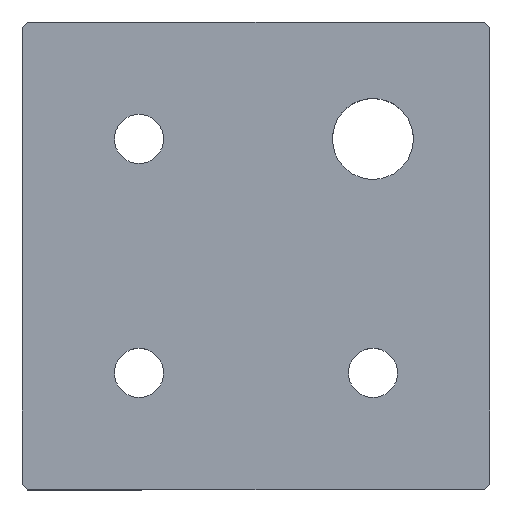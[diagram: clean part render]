
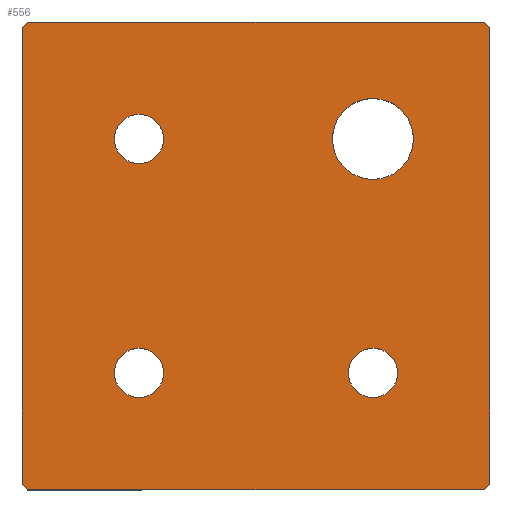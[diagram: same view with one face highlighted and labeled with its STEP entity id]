
A CAD part, top view. The second image highlights one B-rep face of the part: STEP entity #556.
In plain terms, the highlighted planar face has unit normal (0, 0, 1).
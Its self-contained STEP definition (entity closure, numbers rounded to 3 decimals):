
#47 = DIRECTION ( 'NONE',  ( -1., 0., 0. ) ) ;
#60 = CARTESIAN_POINT ( 'NONE',  ( -40., -40., 12. ) ) ;
#77 = CARTESIAN_POINT ( 'NONE',  ( -20., -20., 12. ) ) ;
#83 = DIRECTION ( 'NONE',  ( 0., 0., -1. ) ) ;
#84 = DIRECTION ( 'NONE',  ( -1., 0., 0. ) ) ;
#86 = CARTESIAN_POINT ( 'NONE',  ( 20., 20., 12. ) ) ;
#88 = DIRECTION ( 'NONE',  ( 1., 0., 0. ) ) ;
#108 = DIRECTION ( 'NONE',  ( 0., 0., 1. ) ) ;
#110 = CARTESIAN_POINT ( 'NONE',  ( 24.2, -20., 12. ) ) ;
#111 = CARTESIAN_POINT ( 'NONE',  ( 40., -39., 12. ) ) ;
#113 = CARTESIAN_POINT ( 'NONE',  ( 39., -40., 12. ) ) ;
#119 = CARTESIAN_POINT ( 'NONE',  ( -15.8, 20., 12. ) ) ;
#120 = DIRECTION ( 'NONE',  ( 0., 0., 1. ) ) ;
#122 = DIRECTION ( 'NONE',  ( 1., 0., 0. ) ) ;
#123 = PLANE ( 'NONE',  #235 ) ;
#130 = DIRECTION ( 'NONE',  ( 1., 0., 0. ) ) ;
#133 = CARTESIAN_POINT ( 'NONE',  ( 0., 0., 12. ) ) ;
#135 = CARTESIAN_POINT ( 'NONE',  ( 40., 40., 12. ) ) ;
#141 = EDGE_CURVE ( 'NONE', #835, #825, #851, .T. ) ;
#152 = EDGE_CURVE ( 'NONE', #833, #647, #629, .T. ) ;
#154 = AXIS2_PLACEMENT_3D ( 'NONE', #353, #341, #342 ) ;
#167 = EDGE_CURVE ( 'NONE', #647, #628, #854, .T. ) ;
#169 = EDGE_CURVE ( 'NONE', #580, #824, #591, .T. ) ;
#170 = EDGE_CURVE ( 'NONE', #823, #631, #663, .T. ) ;
#181 = EDGE_CURVE ( 'NONE', #635, #620, #594, .T. ) ;
#184 = AXIS2_PLACEMENT_3D ( 'NONE', #295, #300, #301 ) ;
#187 = EDGE_CURVE ( 'NONE', #800, #833, #570, .T. ) ;
#192 = EDGE_CURVE ( 'NONE', #822, #607, #559, .T. ) ;
#214 = EDGE_CURVE ( 'NONE', #824, #803, #664, .T. ) ;
#217 = AXIS2_PLACEMENT_3D ( 'NONE', #77, #83, #47 ) ;
#231 = EDGE_CURVE ( 'NONE', #603, #580, #690, .T. ) ;
#235 = AXIS2_PLACEMENT_3D ( 'NONE', #133, #108, #122 ) ;
#239 = EDGE_CURVE ( 'NONE', #607, #822, #870, .T. ) ;
#241 = AXIS2_PLACEMENT_3D ( 'NONE', #86, #120, #130 ) ;
#246 = AXIS2_PLACEMENT_3D ( 'NONE', #316, #304, #285 ) ;
#252 = EDGE_CURVE ( 'NONE', #620, #635, #657, .T. ) ;
#254 = AXIS2_PLACEMENT_3D ( 'NONE', #282, #281, #283 ) ;
#257 = EDGE_CURVE ( 'NONE', #631, #823, #622, .T. ) ;
#259 = AXIS2_PLACEMENT_3D ( 'NONE', #318, #319, #320 ) ;
#263 = AXIS2_PLACEMENT_3D ( 'NONE', #398, #391, #359 ) ;
#269 = EDGE_CURVE ( 'NONE', #803, #800, #857, .T. ) ;
#270 = EDGE_CURVE ( 'NONE', #825, #835, #855, .T. ) ;
#277 = EDGE_CURVE ( 'NONE', #628, #603, #884, .T. ) ;
#281 = DIRECTION ( 'NONE',  ( 0., 0., -1. ) ) ;
#282 = CARTESIAN_POINT ( 'NONE',  ( -20., -20., 12. ) ) ;
#283 = DIRECTION ( 'NONE',  ( -1., 0., 0. ) ) ;
#285 = DIRECTION ( 'NONE',  ( 1., 0., 0. ) ) ;
#287 = CARTESIAN_POINT ( 'NONE',  ( -40., 40., 12. ) ) ;
#290 = DIRECTION ( 'NONE',  ( 0.707, 0.707, 0. ) ) ;
#292 = DIRECTION ( 'NONE',  ( 0., 1., 0. ) ) ;
#295 = CARTESIAN_POINT ( 'NONE',  ( 20., -20., 12. ) ) ;
#300 = DIRECTION ( 'NONE',  ( 0., 0., -1. ) ) ;
#301 = DIRECTION ( 'NONE',  ( -1., 0., 0. ) ) ;
#304 = DIRECTION ( 'NONE',  ( 0., 0., 1. ) ) ;
#315 = CARTESIAN_POINT ( 'NONE',  ( -39.5, 39.5, 12. ) ) ;
#316 = CARTESIAN_POINT ( 'NONE',  ( 20., 20., 12. ) ) ;
#318 = CARTESIAN_POINT ( 'NONE',  ( -20., 20., 12. ) ) ;
#319 = DIRECTION ( 'NONE',  ( 0., 0., -1. ) ) ;
#320 = DIRECTION ( 'NONE',  ( -1., 0., 0. ) ) ;
#324 = DIRECTION ( 'NONE',  ( -0.707, -0.707, 0. ) ) ;
#341 = DIRECTION ( 'NONE',  ( 0., 0., -1. ) ) ;
#342 = DIRECTION ( 'NONE',  ( -1., 0., 0. ) ) ;
#346 = CARTESIAN_POINT ( 'NONE',  ( 40., -40., 12. ) ) ;
#353 = CARTESIAN_POINT ( 'NONE',  ( -20., 20., 12. ) ) ;
#358 = DIRECTION ( 'NONE',  ( 0.707, -0.707, 0. ) ) ;
#359 = DIRECTION ( 'NONE',  ( -1., 0., 0. ) ) ;
#365 = CARTESIAN_POINT ( 'NONE',  ( 39.5, 39.5, 12. ) ) ;
#374 = DIRECTION ( 'NONE',  ( -0.707, 0.707, 0. ) ) ;
#379 = DIRECTION ( 'NONE',  ( 0., -1., 0. ) ) ;
#390 = CARTESIAN_POINT ( 'NONE',  ( 39.5, -39.5, 12. ) ) ;
#391 = DIRECTION ( 'NONE',  ( 0., 0., -1. ) ) ;
#398 = CARTESIAN_POINT ( 'NONE',  ( 20., -20., 12. ) ) ;
#405 = CARTESIAN_POINT ( 'NONE',  ( -39.5, -39.5, 12. ) ) ;
#414 = CARTESIAN_POINT ( 'NONE',  ( 39., 40., 12. ) ) ;
#434 = CARTESIAN_POINT ( 'NONE',  ( 26.918, 20., 12. ) ) ;
#441 = CARTESIAN_POINT ( 'NONE',  ( -39., -40., 12. ) ) ;
#442 = CARTESIAN_POINT ( 'NONE',  ( 40., 39., 12. ) ) ;
#445 = CARTESIAN_POINT ( 'NONE',  ( -24.2, 20., 12. ) ) ;
#446 = CARTESIAN_POINT ( 'NONE',  ( 15.8, -20., 12. ) ) ;
#455 = CARTESIAN_POINT ( 'NONE',  ( -24.2, -20., 12. ) ) ;
#457 = CARTESIAN_POINT ( 'NONE',  ( -39., 40., 12. ) ) ;
#463 = CARTESIAN_POINT ( 'NONE',  ( -40., 39., 12. ) ) ;
#466 = CARTESIAN_POINT ( 'NONE',  ( -40., -39., 12. ) ) ;
#467 = CARTESIAN_POINT ( 'NONE',  ( 13.082, 20., 12. ) ) ;
#468 = CARTESIAN_POINT ( 'NONE',  ( -15.8, -20., 12. ) ) ;
#482 = FACE_BOUND ( 'NONE', #735, .T. ) ;
#484 = FACE_OUTER_BOUND ( 'NONE', #839, .T. ) ;
#488 = FACE_BOUND ( 'NONE', #730, .T. ) ;
#491 = FACE_BOUND ( 'NONE', #658, .T. ) ;
#501 = FACE_BOUND ( 'NONE', #897, .T. ) ;
#556 = ADVANCED_FACE ( 'NONE', ( #482, #501, #488, #491, #484 ), #123, .T. ) ;
#559 = CIRCLE ( 'NONE', #184, 4.2 ) ;
#561 = ORIENTED_EDGE ( 'NONE', *, *, #167, .T. ) ;
#570 = LINE ( 'NONE', #315, #595 ) ;
#578 = ORIENTED_EDGE ( 'NONE', *, *, #277, .T. ) ;
#580 = VERTEX_POINT ( 'NONE', #111 ) ;
#591 = LINE ( 'NONE', #346, #673 ) ;
#594 = CIRCLE ( 'NONE', #259, 4.2 ) ;
#595 = VECTOR ( 'NONE', #324, 1000. ) ;
#603 = VERTEX_POINT ( 'NONE', #113 ) ;
#604 = ORIENTED_EDGE ( 'NONE', *, *, #141, .F. ) ;
#607 = VERTEX_POINT ( 'NONE', #110 ) ;
#608 = ORIENTED_EDGE ( 'NONE', *, *, #187, .T. ) ;
#611 = VECTOR ( 'NONE', #358, 1000. ) ;
#620 = VERTEX_POINT ( 'NONE', #119 ) ;
#622 = CIRCLE ( 'NONE', #217, 4.2 ) ;
#628 = VERTEX_POINT ( 'NONE', #441 ) ;
#629 = LINE ( 'NONE', #287, #829 ) ;
#631 = VERTEX_POINT ( 'NONE', #455 ) ;
#635 = VERTEX_POINT ( 'NONE', #445 ) ;
#640 = ORIENTED_EDGE ( 'NONE', *, *, #231, .T. ) ;
#647 = VERTEX_POINT ( 'NONE', #466 ) ;
#657 = CIRCLE ( 'NONE', #154, 4.2 ) ;
#658 = EDGE_LOOP ( 'NONE', ( #695, #711 ) ) ;
#663 = CIRCLE ( 'NONE', #254, 4.2 ) ;
#664 = LINE ( 'NONE', #365, #904 ) ;
#673 = VECTOR ( 'NONE', #292, 1000. ) ;
#683 = ORIENTED_EDGE ( 'NONE', *, *, #192, .T. ) ;
#690 = LINE ( 'NONE', #390, #742 ) ;
#695 = ORIENTED_EDGE ( 'NONE', *, *, #181, .T. ) ;
#711 = ORIENTED_EDGE ( 'NONE', *, *, #252, .T. ) ;
#728 = ORIENTED_EDGE ( 'NONE', *, *, #270, .F. ) ;
#730 = EDGE_LOOP ( 'NONE', ( #683, #874 ) ) ;
#735 = EDGE_LOOP ( 'NONE', ( #728, #604 ) ) ;
#742 = VECTOR ( 'NONE', #290, 1000. ) ;
#751 = ORIENTED_EDGE ( 'NONE', *, *, #170, .T. ) ;
#765 = ORIENTED_EDGE ( 'NONE', *, *, #214, .T. ) ;
#800 = VERTEX_POINT ( 'NONE', #457 ) ;
#803 = VERTEX_POINT ( 'NONE', #414 ) ;
#804 = ORIENTED_EDGE ( 'NONE', *, *, #269, .T. ) ;
#821 = ORIENTED_EDGE ( 'NONE', *, *, #257, .T. ) ;
#822 = VERTEX_POINT ( 'NONE', #446 ) ;
#823 = VERTEX_POINT ( 'NONE', #468 ) ;
#824 = VERTEX_POINT ( 'NONE', #442 ) ;
#825 = VERTEX_POINT ( 'NONE', #434 ) ;
#829 = VECTOR ( 'NONE', #379, 1000. ) ;
#833 = VERTEX_POINT ( 'NONE', #463 ) ;
#835 = VERTEX_POINT ( 'NONE', #467 ) ;
#838 = VECTOR ( 'NONE', #84, 1000. ) ;
#839 = EDGE_LOOP ( 'NONE', ( #845, #561, #578, #640, #900, #765, #804, #608 ) ) ;
#845 = ORIENTED_EDGE ( 'NONE', *, *, #152, .T. ) ;
#851 = CIRCLE ( 'NONE', #246, 6.918 ) ;
#854 = LINE ( 'NONE', #405, #611 ) ;
#855 = CIRCLE ( 'NONE', #241, 6.918 ) ;
#857 = LINE ( 'NONE', #135, #838 ) ;
#870 = CIRCLE ( 'NONE', #263, 4.2 ) ;
#874 = ORIENTED_EDGE ( 'NONE', *, *, #239, .T. ) ;
#884 = LINE ( 'NONE', #60, #892 ) ;
#892 = VECTOR ( 'NONE', #88, 1000. ) ;
#897 = EDGE_LOOP ( 'NONE', ( #821, #751 ) ) ;
#900 = ORIENTED_EDGE ( 'NONE', *, *, #169, .T. ) ;
#904 = VECTOR ( 'NONE', #374, 1000. ) ;
